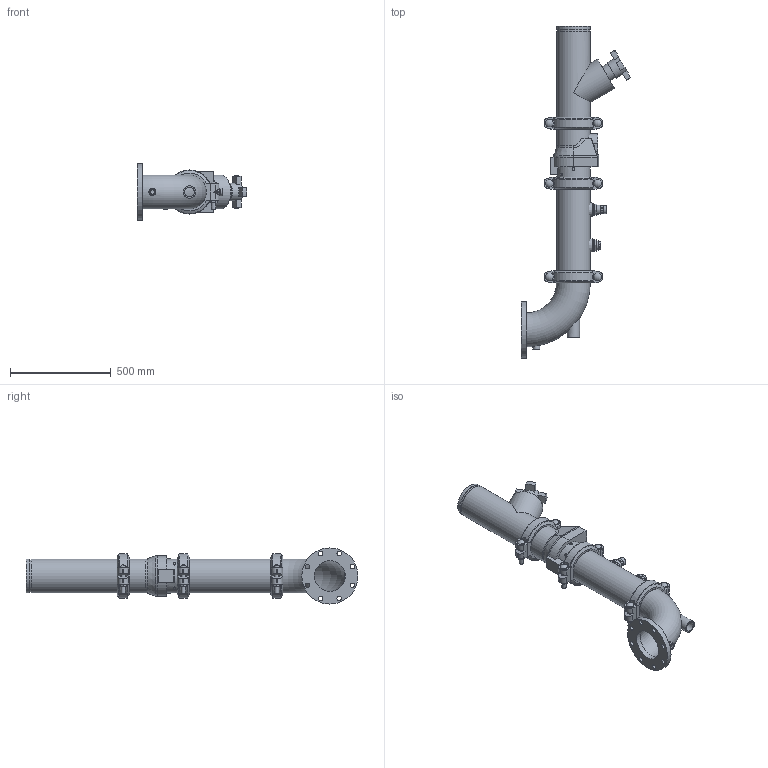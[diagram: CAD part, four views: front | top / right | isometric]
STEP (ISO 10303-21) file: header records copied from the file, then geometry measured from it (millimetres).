
FILE_DESCRIPTION(/* description */ ('VIC DVI PUMP DROP HORZ S/383 (OGSxFLG) (S/924-0.75)','CAx-IF Rec.Pracs.---Representation and Presentation of Product Manufacturing Information (PMI)---4.0---2014-10-13'),/* implementation_level */ '2;1');
FILE_NAME(/* name */ 'C:\Users\kkamble\AppData\Roaming\Autodesk\ApplicationPlugins\Victaulic.Temp\A821\CL 150_Series 383 (OGSxFLG)_924 (0.75)_06.0x06.0 (150x150).stp',/* time_stamp */ '2022-03-16T18:46:19+05:00',/* author */ ('kkamble'),/* organization */ ('Victaulic'),/* preprocessor_version */ 'ST-DEVELOPER v17.2',/* originating_system */ 'Autodesk Inventor 2019',/* authorisation */ '');
FILE_SCHEMA (('AP242_MANAGED_MODEL_BASED_3D_ENGINEERING_MIM_LF { 1 0 10303 442 1 1 4 }'));
Length unit declared in the file: inch
Products named in the file (8): 383_924 (0.75)-06.0x06.0; Pipe-06.0x06.0; 789-06.0; 177N-06.0; 779-06.0; 924-04.0x0.75; 923-04.0x0.75; 100F-06.0
Assembly tree (9 placements, depth 2):
  383_924 (0.75)-06.0x06.0
    177N-06.0  x3
    Pipe-06.0x06.0
    789-06.0
    779-06.0
    924-04.0x0.75
    923-04.0x0.75
    100F-06.0
Bounding box: 546.1 x 1651 x 279.4 mm (x, y, z)
Volume: 15873792.2 mm3; surface area: 2529384.2 mm2
Topology: 9 solids, 9 shells, 530 faces, 1392 edges, 933 vertices
Faces by surface type: plane 305, cylinder 179, torus 21, cone 17, sphere 6, bspline 2
Full cylindrical faces by diameter (mm): 13.716 x4, 20.93 x1, 21.209 x6, 22.352 x8, 26.67 x4, 34.29 x1, 37.694 x6, 38.608 x1, 45.974 x4, 48.26 x1, 55.626 x2, 60.96 x1, 79.375 x1, 88.9 x1, 154.051 x5, 155.575 x3, 163.957 x7, 168.275 x18, 279.4 x1
Entity records: 12016 total; most frequent: CARTESIAN_POINT 2621, DIRECTION 1930, ORIENTED_EDGE 1764, EDGE_CURVE 882, AXIS2_PLACEMENT_3D 740, VERTEX_POINT 597, LINE 450, VECTOR 450
